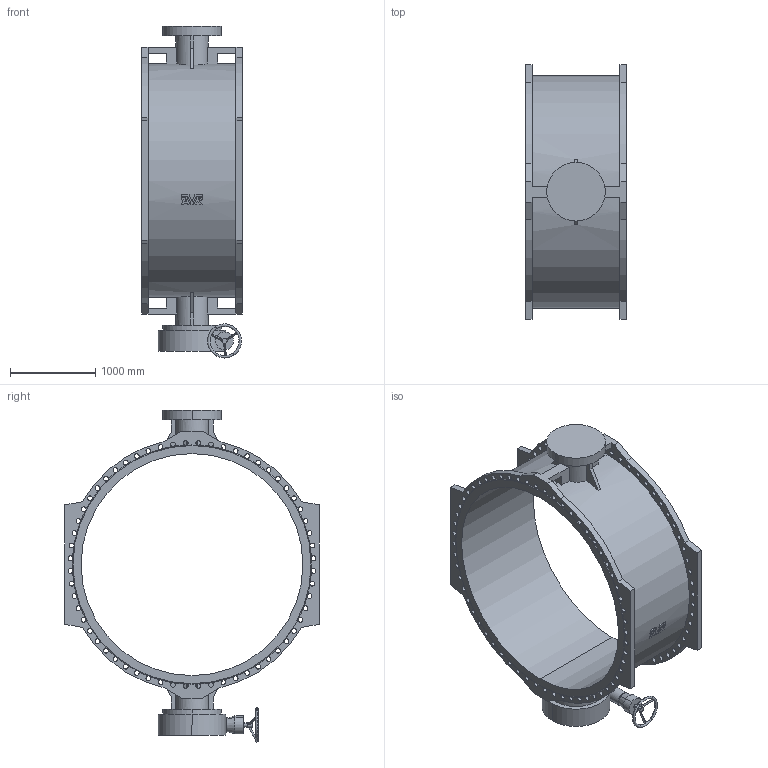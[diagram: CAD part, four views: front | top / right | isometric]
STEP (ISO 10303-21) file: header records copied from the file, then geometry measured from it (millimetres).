
FILE_DESCRIPTION (( 'STEP AP203' ), '1' );
FILE_NAME ('O_756_100_DN2600_0XX000XX_REV03.step', '2021-10-11T07:06:10', ( '' ), ( '' ), 'SwSTEP 2.0', 'SolidWorks 2019', '' );
FILE_SCHEMA (( 'CONFIG_CONTROL_DESIGN' ));
Length unit declared in the file: millimetre
Products named in the file (1): O_756_100_DN2600_0XX000XX_REV03
Bounding box: 1190 x 2980 x 3889.38 mm (x, y, z)
Volume: 1135959664.1 mm3; surface area: 31676701 mm2
Topology: 1 solids, 1 shells, 399 faces, 1536 edges, 1022 vertices
Faces by surface type: cylinder 280, plane 92, bspline 17, cone 6, torus 4
Entity records: 21667 total; most frequent: CARTESIAN_POINT 7988, ORIENTED_EDGE 3072, DIRECTION 2863, EDGE_CURVE 1536, AXIS2_PLACEMENT_3D 1168, VERTEX_POINT 1022, CIRCLE 785, EDGE_LOOP 538
